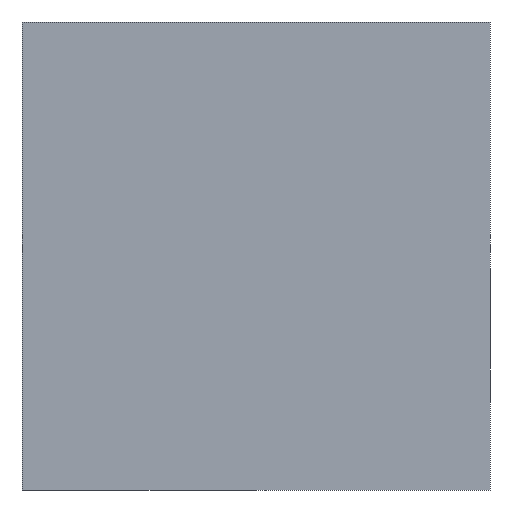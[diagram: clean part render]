
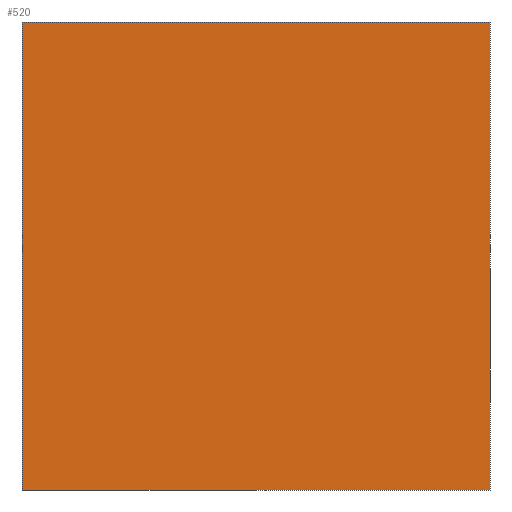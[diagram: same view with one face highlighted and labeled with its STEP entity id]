
A CAD part, left-side view. The second image highlights one B-rep face of the part: STEP entity #520.
In plain terms, the highlighted planar face has unit normal (-1, 0, 0).
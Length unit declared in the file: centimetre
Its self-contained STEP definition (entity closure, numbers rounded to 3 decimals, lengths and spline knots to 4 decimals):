
#8 = DIRECTION ( 'NONE',  ( 0., 0., -1. ) ) ;
#12 = ORIENTED_EDGE ( 'NONE', *, *, #302, .F. ) ;
#17 = EDGE_LOOP ( 'NONE', ( #177, #12, #506, #623 ) ) ;
#23 = CARTESIAN_POINT ( 'NONE',  ( 0., 1000., 1000. ) ) ;
#57 = CARTESIAN_POINT ( 'NONE',  ( 0., 1000., 0. ) ) ;
#98 = VERTEX_POINT ( 'NONE', #603 ) ;
#146 = VERTEX_POINT ( 'NONE', #521 ) ;
#153 = LINE ( 'NONE', #561, #569 ) ;
#162 = VECTOR ( 'NONE', #8, 100. ) ;
#173 = PLANE ( 'NONE',  #425 ) ;
#174 = VERTEX_POINT ( 'NONE', #57 ) ;
#177 = ORIENTED_EDGE ( 'NONE', *, *, #672, .T. ) ;
#209 = LINE ( 'NONE', #353, #479 ) ;
#226 = CARTESIAN_POINT ( 'NONE',  ( 0., 0., 1000. ) ) ;
#254 = FACE_OUTER_BOUND ( 'NONE', #17, .T. ) ;
#302 = EDGE_CURVE ( 'NONE', #645, #146, #608, .T. ) ;
#353 = CARTESIAN_POINT ( 'NONE',  ( 0., 1000., 0. ) ) ;
#409 = CARTESIAN_POINT ( 'NONE',  ( 0., 0., 1000. ) ) ;
#425 = AXIS2_PLACEMENT_3D ( 'NONE', #23, #546, #606 ) ;
#431 = LINE ( 'NONE', #663, #162 ) ;
#479 = VECTOR ( 'NONE', #678, 100. ) ;
#501 = DIRECTION ( 'NONE',  ( 0., 0., -1. ) ) ;
#506 = ORIENTED_EDGE ( 'NONE', *, *, #632, .F. ) ;
#511 = VECTOR ( 'NONE', #501, 100. ) ;
#514 = DIRECTION ( 'NONE',  ( 0., -1., 0. ) ) ;
#520 = ADVANCED_FACE ( 'NONE', ( #254 ), #173, .F. ) ;
#521 = CARTESIAN_POINT ( 'NONE',  ( 0., 0., 0. ) ) ;
#541 = EDGE_CURVE ( 'NONE', #98, #174, #431, .T. ) ;
#546 = DIRECTION ( 'NONE',  ( 1., 0., 0. ) ) ;
#561 = CARTESIAN_POINT ( 'NONE',  ( 0., 1000., 1000. ) ) ;
#569 = VECTOR ( 'NONE', #514, 100. ) ;
#603 = CARTESIAN_POINT ( 'NONE',  ( 0., 1000., 1000. ) ) ;
#606 = DIRECTION ( 'NONE',  ( 0., 0., -1. ) ) ;
#608 = LINE ( 'NONE', #226, #511 ) ;
#623 = ORIENTED_EDGE ( 'NONE', *, *, #541, .T. ) ;
#632 = EDGE_CURVE ( 'NONE', #98, #645, #153, .T. ) ;
#645 = VERTEX_POINT ( 'NONE', #409 ) ;
#663 = CARTESIAN_POINT ( 'NONE',  ( 0., 1000., 1000. ) ) ;
#672 = EDGE_CURVE ( 'NONE', #174, #146, #209, .T. ) ;
#678 = DIRECTION ( 'NONE',  ( 0., -1., 0. ) ) ;
